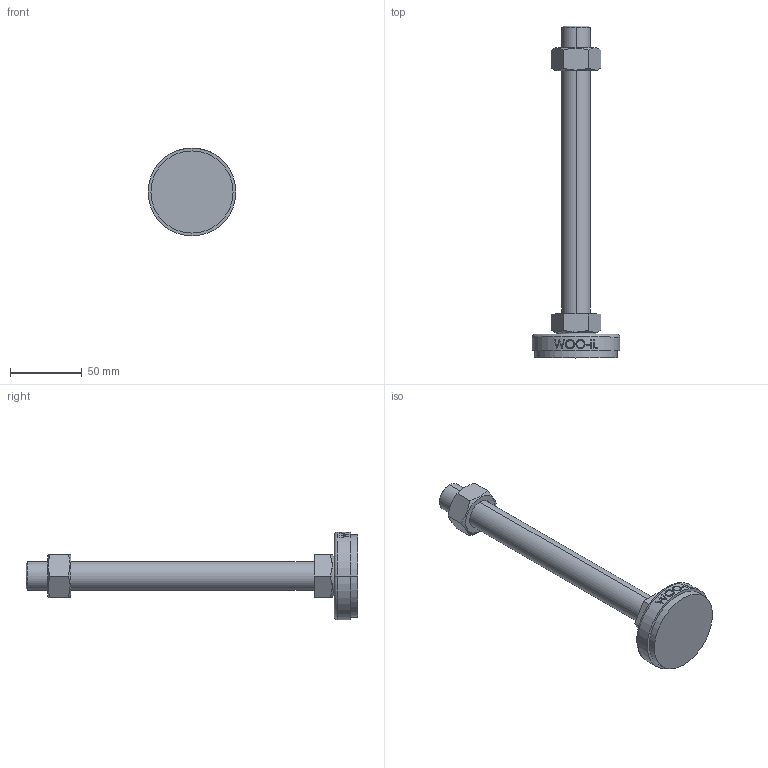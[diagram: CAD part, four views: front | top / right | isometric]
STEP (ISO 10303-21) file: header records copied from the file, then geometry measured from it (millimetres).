
FILE_DESCRIPTION (( 'STEP AP214' ), '1' );
FILE_NAME ('NS61-M20-200.step', '2021-01-11T05:46:54', ( '' ), ( '' ), 'SwSTEP 2.0', 'SolidWorks 2019', '' );
FILE_SCHEMA (( 'AUTOMOTIVE_DESIGN' ));
Length unit declared in the file: millimetre
Products named in the file (2): NS61-M20-200
Bounding box: 61 x 230.5 x 61 mm (x, y, z)
Volume: 126964.3 mm3; surface area: 27693.7 mm2
Topology: 3 solids, 3 shells, 96 faces, 227 edges, 148 vertices
Faces by surface type: plane 48, cylinder 18, bspline 16, cone 12, torus 2
Entity records: 4296 total; most frequent: CARTESIAN_POINT 2151, ORIENTED_EDGE 454, DIRECTION 381, EDGE_CURVE 227, VERTEX_POINT 148, AXIS2_PLACEMENT_3D 142, EDGE_LOOP 109, VECTOR 97
